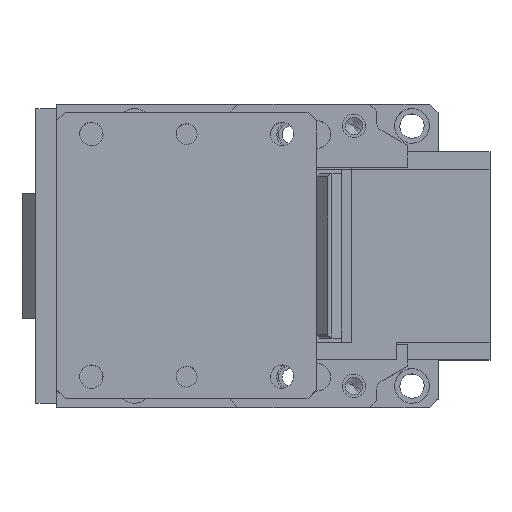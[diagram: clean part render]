
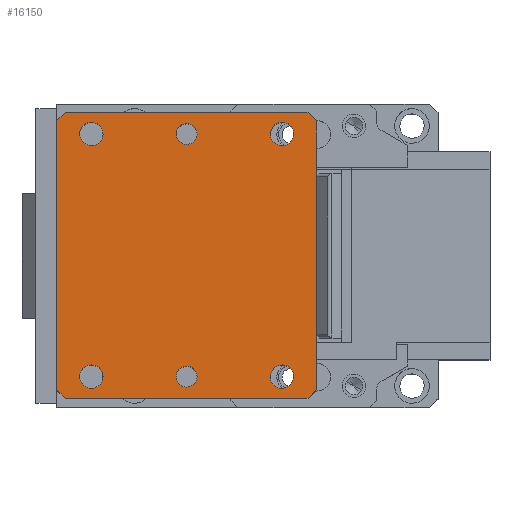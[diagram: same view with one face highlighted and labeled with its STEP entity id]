
A CAD part, top view. The second image highlights one B-rep face of the part: STEP entity #16150.
In plain terms, the highlighted planar face has unit normal (0, 0, 1).
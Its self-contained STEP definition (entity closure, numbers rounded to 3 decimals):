
#15557=CARTESIAN_POINT('Vertex',(5.,82.5,280.)) ;
#15560=CARTESIAN_POINT('Line Origine',(75.,82.5,280.)) ;
#15564=CARTESIAN_POINT('Vertex',(145.,82.5,280.)) ;
#15680=CARTESIAN_POINT('Vertex',(0.,77.5,280.)) ;
#15683=CARTESIAN_POINT('Line Origine',(0.,77.5,280.)) ;
#15823=CARTESIAN_POINT('Vertex',(145.,-82.5,280.)) ;
#15828=CARTESIAN_POINT('Line Origine',(75.,-82.5,280.)) ;
#15832=CARTESIAN_POINT('Vertex',(5.,-82.5,280.)) ;
#15946=CARTESIAN_POINT('Line Origine',(0.,-77.5,280.)) ;
#15950=CARTESIAN_POINT('Vertex',(0.,-77.5,280.)) ;
#16003=CARTESIAN_POINT('Axis2P3D Location',(197.229,0.,280.)) ;
#16008=CARTESIAN_POINT('Line Origine',(147.5,-80.,280.)) ;
#16012=CARTESIAN_POINT('Vertex',(150.,-77.5,280.)) ;
#16015=CARTESIAN_POINT('Line Origine',(150.,0.,280.)) ;
#16019=CARTESIAN_POINT('Vertex',(150.,77.5,280.)) ;
#16022=CARTESIAN_POINT('Line Origine',(147.5,80.,280.)) ;
#16027=CARTESIAN_POINT('Line Origine',(0.,0.,280.)) ;
#16042=CARTESIAN_POINT('Axis2P3D Location',(20.,-70.,280.)) ;
#16046=CARTESIAN_POINT('Vertex',(16.764,-64.076,280.)) ;
#16048=CARTESIAN_POINT('Vertex',(23.236,-75.924,280.)) ;
#16051=CARTESIAN_POINT('Axis2P3D Location',(20.,-70.,280.)) ;
#16060=CARTESIAN_POINT('Axis2P3D Location',(130.,-70.,280.)) ;
#16064=CARTESIAN_POINT('Vertex',(126.764,-64.076,280.)) ;
#16066=CARTESIAN_POINT('Vertex',(133.236,-75.924,280.)) ;
#16069=CARTESIAN_POINT('Axis2P3D Location',(130.,-70.,280.)) ;
#16078=CARTESIAN_POINT('Axis2P3D Location',(130.,70.,280.)) ;
#16082=CARTESIAN_POINT('Vertex',(126.764,75.924,280.)) ;
#16084=CARTESIAN_POINT('Vertex',(133.236,64.076,280.)) ;
#16087=CARTESIAN_POINT('Axis2P3D Location',(130.,70.,280.)) ;
#16096=CARTESIAN_POINT('Axis2P3D Location',(20.,70.,280.)) ;
#16100=CARTESIAN_POINT('Vertex',(16.764,75.924,280.)) ;
#16102=CARTESIAN_POINT('Vertex',(23.236,64.076,280.)) ;
#16105=CARTESIAN_POINT('Axis2P3D Location',(20.,70.,280.)) ;
#16114=CARTESIAN_POINT('Axis2P3D Location',(75.,-70.,280.)) ;
#16118=CARTESIAN_POINT('Vertex',(72.123,-64.735,280.)) ;
#16120=CARTESIAN_POINT('Vertex',(77.877,-75.265,280.)) ;
#16123=CARTESIAN_POINT('Axis2P3D Location',(75.,-70.,280.)) ;
#16132=CARTESIAN_POINT('Axis2P3D Location',(75.,70.,280.)) ;
#16136=CARTESIAN_POINT('Vertex',(72.123,75.265,280.)) ;
#16138=CARTESIAN_POINT('Vertex',(77.877,64.735,280.)) ;
#16141=CARTESIAN_POINT('Axis2P3D Location',(75.,70.,280.)) ;
#15562=VECTOR('Line Direction',#15561,1.) ;
#15685=VECTOR('Line Direction',#15684,1.) ;
#15830=VECTOR('Line Direction',#15829,1.) ;
#15948=VECTOR('Line Direction',#15947,1.) ;
#16010=VECTOR('Line Direction',#16009,1.) ;
#16017=VECTOR('Line Direction',#16016,1.) ;
#16024=VECTOR('Line Direction',#16023,1.) ;
#16029=VECTOR('Line Direction',#16028,1.) ;
#15561=DIRECTION('Vector Direction',(-1.,0.,0.)) ;
#15684=DIRECTION('Vector Direction',(0.707,0.707,0.)) ;
#15829=DIRECTION('Vector Direction',(-1.,0.,0.)) ;
#15947=DIRECTION('Vector Direction',(0.707,-0.707,0.)) ;
#16004=DIRECTION('Axis2P3D Direction',(0.,0.,1.)) ;
#16005=DIRECTION('Axis2P3D XDirection',(-1.,0.,0.)) ;
#16009=DIRECTION('Vector Direction',(-0.707,-0.707,0.)) ;
#16016=DIRECTION('Vector Direction',(0.,1.,0.)) ;
#16023=DIRECTION('Vector Direction',(-0.707,0.707,0.)) ;
#16028=DIRECTION('Vector Direction',(0.,-1.,0.)) ;
#16043=DIRECTION('Axis2P3D Direction',(0.,0.,1.)) ;
#16052=DIRECTION('Axis2P3D Direction',(0.,0.,1.)) ;
#16061=DIRECTION('Axis2P3D Direction',(0.,0.,1.)) ;
#16070=DIRECTION('Axis2P3D Direction',(0.,0.,1.)) ;
#16079=DIRECTION('Axis2P3D Direction',(0.,0.,1.)) ;
#16088=DIRECTION('Axis2P3D Direction',(0.,0.,1.)) ;
#16097=DIRECTION('Axis2P3D Direction',(0.,0.,1.)) ;
#16106=DIRECTION('Axis2P3D Direction',(0.,0.,1.)) ;
#16115=DIRECTION('Axis2P3D Direction',(0.,0.,1.)) ;
#16124=DIRECTION('Axis2P3D Direction',(0.,0.,1.)) ;
#16133=DIRECTION('Axis2P3D Direction',(0.,0.,1.)) ;
#16142=DIRECTION('Axis2P3D Direction',(0.,0.,1.)) ;
#16006=AXIS2_PLACEMENT_3D('Plane Axis2P3D',#16003,#16004,#16005) ;
#16044=AXIS2_PLACEMENT_3D('Circle Axis2P3D',#16042,#16043,$) ;
#16053=AXIS2_PLACEMENT_3D('Circle Axis2P3D',#16051,#16052,$) ;
#16062=AXIS2_PLACEMENT_3D('Circle Axis2P3D',#16060,#16061,$) ;
#16071=AXIS2_PLACEMENT_3D('Circle Axis2P3D',#16069,#16070,$) ;
#16080=AXIS2_PLACEMENT_3D('Circle Axis2P3D',#16078,#16079,$) ;
#16089=AXIS2_PLACEMENT_3D('Circle Axis2P3D',#16087,#16088,$) ;
#16098=AXIS2_PLACEMENT_3D('Circle Axis2P3D',#16096,#16097,$) ;
#16107=AXIS2_PLACEMENT_3D('Circle Axis2P3D',#16105,#16106,$) ;
#16116=AXIS2_PLACEMENT_3D('Circle Axis2P3D',#16114,#16115,$) ;
#16125=AXIS2_PLACEMENT_3D('Circle Axis2P3D',#16123,#16124,$) ;
#16134=AXIS2_PLACEMENT_3D('Circle Axis2P3D',#16132,#16133,$) ;
#16143=AXIS2_PLACEMENT_3D('Circle Axis2P3D',#16141,#16142,$) ;
#15563=LINE('Line',#15560,#15562) ;
#15686=LINE('Line',#15683,#15685) ;
#15831=LINE('Line',#15828,#15830) ;
#15949=LINE('Line',#15946,#15948) ;
#16011=LINE('Line',#16008,#16010) ;
#16018=LINE('Line',#16015,#16017) ;
#16025=LINE('Line',#16022,#16024) ;
#16030=LINE('Line',#16027,#16029) ;
#16045=CIRCLE('generated circle',#16044,6.75) ;
#16054=CIRCLE('generated circle',#16053,6.75) ;
#16063=CIRCLE('generated circle',#16062,6.75) ;
#16072=CIRCLE('generated circle',#16071,6.75) ;
#16081=CIRCLE('generated circle',#16080,6.75) ;
#16090=CIRCLE('generated circle',#16089,6.75) ;
#16099=CIRCLE('generated circle',#16098,6.75) ;
#16108=CIRCLE('generated circle',#16107,6.75) ;
#16117=CIRCLE('generated circle',#16116,6.) ;
#16126=CIRCLE('generated circle',#16125,6.) ;
#16135=CIRCLE('generated circle',#16134,6.) ;
#16144=CIRCLE('generated circle',#16143,6.) ;
#16007=PLANE('',#16006) ;
#16059=FACE_BOUND('',#16056,.T.) ;
#16077=FACE_BOUND('',#16074,.T.) ;
#16095=FACE_BOUND('',#16092,.T.) ;
#16113=FACE_BOUND('',#16110,.T.) ;
#16131=FACE_BOUND('',#16128,.T.) ;
#16149=FACE_BOUND('',#16146,.T.) ;
#15566=EDGE_CURVE('',#15565,#15558,#15563,.T.) ;
#15687=EDGE_CURVE('',#15681,#15558,#15686,.T.) ;
#15834=EDGE_CURVE('',#15824,#15833,#15831,.T.) ;
#15952=EDGE_CURVE('',#15951,#15833,#15949,.T.) ;
#16014=EDGE_CURVE('',#16013,#15824,#16011,.T.) ;
#16021=EDGE_CURVE('',#16020,#16013,#16018,.F.) ;
#16026=EDGE_CURVE('',#16020,#15565,#16025,.T.) ;
#16031=EDGE_CURVE('',#15951,#15681,#16030,.F.) ;
#16050=EDGE_CURVE('',#16047,#16049,#16045,.T.) ;
#16055=EDGE_CURVE('',#16049,#16047,#16054,.T.) ;
#16068=EDGE_CURVE('',#16065,#16067,#16063,.T.) ;
#16073=EDGE_CURVE('',#16067,#16065,#16072,.T.) ;
#16086=EDGE_CURVE('',#16083,#16085,#16081,.T.) ;
#16091=EDGE_CURVE('',#16085,#16083,#16090,.T.) ;
#16104=EDGE_CURVE('',#16101,#16103,#16099,.T.) ;
#16109=EDGE_CURVE('',#16103,#16101,#16108,.T.) ;
#16122=EDGE_CURVE('',#16119,#16121,#16117,.T.) ;
#16127=EDGE_CURVE('',#16121,#16119,#16126,.T.) ;
#16140=EDGE_CURVE('',#16137,#16139,#16135,.T.) ;
#16145=EDGE_CURVE('',#16139,#16137,#16144,.T.) ;
#16032=EDGE_LOOP('',(#16033,#16034,#16035,#16036,#16037,#16038,#16039,#16040)) ;
#16056=EDGE_LOOP('',(#16057,#16058)) ;
#16074=EDGE_LOOP('',(#16075,#16076)) ;
#16092=EDGE_LOOP('',(#16093,#16094)) ;
#16110=EDGE_LOOP('',(#16111,#16112)) ;
#16128=EDGE_LOOP('',(#16129,#16130)) ;
#16146=EDGE_LOOP('',(#16147,#16148)) ;
#16033=ORIENTED_EDGE('',*,*,#15952,.T.) ;
#16034=ORIENTED_EDGE('',*,*,#15834,.F.) ;
#16035=ORIENTED_EDGE('',*,*,#16014,.F.) ;
#16036=ORIENTED_EDGE('',*,*,#16021,.F.) ;
#16037=ORIENTED_EDGE('',*,*,#16026,.T.) ;
#16038=ORIENTED_EDGE('',*,*,#15566,.T.) ;
#16039=ORIENTED_EDGE('',*,*,#15687,.F.) ;
#16040=ORIENTED_EDGE('',*,*,#16031,.F.) ;
#16057=ORIENTED_EDGE('',*,*,#16050,.F.) ;
#16058=ORIENTED_EDGE('',*,*,#16055,.F.) ;
#16075=ORIENTED_EDGE('',*,*,#16068,.F.) ;
#16076=ORIENTED_EDGE('',*,*,#16073,.F.) ;
#16093=ORIENTED_EDGE('',*,*,#16086,.F.) ;
#16094=ORIENTED_EDGE('',*,*,#16091,.F.) ;
#16111=ORIENTED_EDGE('',*,*,#16104,.F.) ;
#16112=ORIENTED_EDGE('',*,*,#16109,.F.) ;
#16129=ORIENTED_EDGE('',*,*,#16122,.F.) ;
#16130=ORIENTED_EDGE('',*,*,#16127,.F.) ;
#16147=ORIENTED_EDGE('',*,*,#16140,.F.) ;
#16148=ORIENTED_EDGE('',*,*,#16145,.F.) ;
#15558=VERTEX_POINT('',#15557) ;
#15565=VERTEX_POINT('',#15564) ;
#15681=VERTEX_POINT('',#15680) ;
#15824=VERTEX_POINT('',#15823) ;
#15833=VERTEX_POINT('',#15832) ;
#15951=VERTEX_POINT('',#15950) ;
#16013=VERTEX_POINT('',#16012) ;
#16020=VERTEX_POINT('',#16019) ;
#16047=VERTEX_POINT('',#16046) ;
#16049=VERTEX_POINT('',#16048) ;
#16065=VERTEX_POINT('',#16064) ;
#16067=VERTEX_POINT('',#16066) ;
#16083=VERTEX_POINT('',#16082) ;
#16085=VERTEX_POINT('',#16084) ;
#16101=VERTEX_POINT('',#16100) ;
#16103=VERTEX_POINT('',#16102) ;
#16119=VERTEX_POINT('',#16118) ;
#16121=VERTEX_POINT('',#16120) ;
#16137=VERTEX_POINT('',#16136) ;
#16139=VERTEX_POINT('',#16138) ;
#16150=ADVANCED_FACE('opened position',(#16041,#16059,#16077,#16095,#16113,#16131,#16149),#16007,.T.) ;
#16041=FACE_OUTER_BOUND('',#16032,.T.) ;
